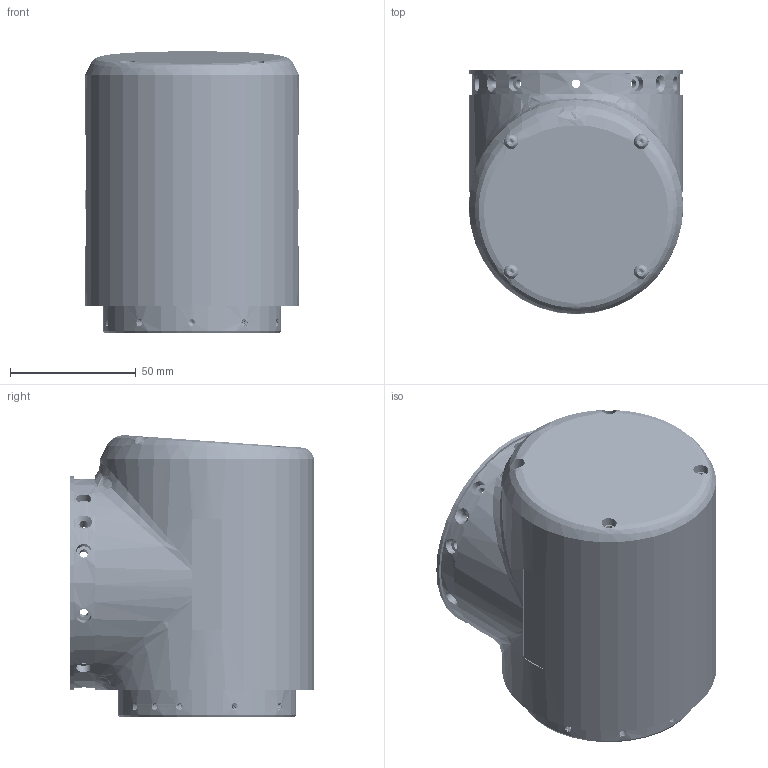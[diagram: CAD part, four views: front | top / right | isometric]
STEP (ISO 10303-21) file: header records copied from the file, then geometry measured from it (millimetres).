
FILE_DESCRIPTION (( 'STEP AP203' ), '1' );
FILE_NAME ('eRob80H｡ﾁ｡ﾁT-XX-18CX_V5_MC2D.CX.XX.step', '2025-03-20T11:30:59', ( 'Windows User' ), ( 'P R C' ), 'SwSTEP 2.0', 'SolidWorks 2021', '' );
FILE_SCHEMA (( 'CONFIG_CONTROL_DESIGN' ));
Length unit declared in the file: millimetre
Products named in the file (1): eRob80H××T-XX-18CX_V5_MC2D.CX.XX
Bounding box: 85 x 97 x 111.8 mm (x, y, z)
Volume: 479524.5 mm3; surface area: 110548.3 mm2
Topology: 2 solids, 2 shells, 4126 faces, 11108 edges, 7119 vertices
Faces by surface type: plane 2245, cylinder 1251, bspline 362, cone 183, torus 77, sphere 8
Entity records: 215431 total; most frequent: CARTESIAN_POINT 117178, ORIENTED_EDGE 21972, DIRECTION 18500, EDGE_CURVE 10986, VERTEX_POINT 7119, LINE 6748, VECTOR 6748, AXIS2_PLACEMENT_3D 5876
